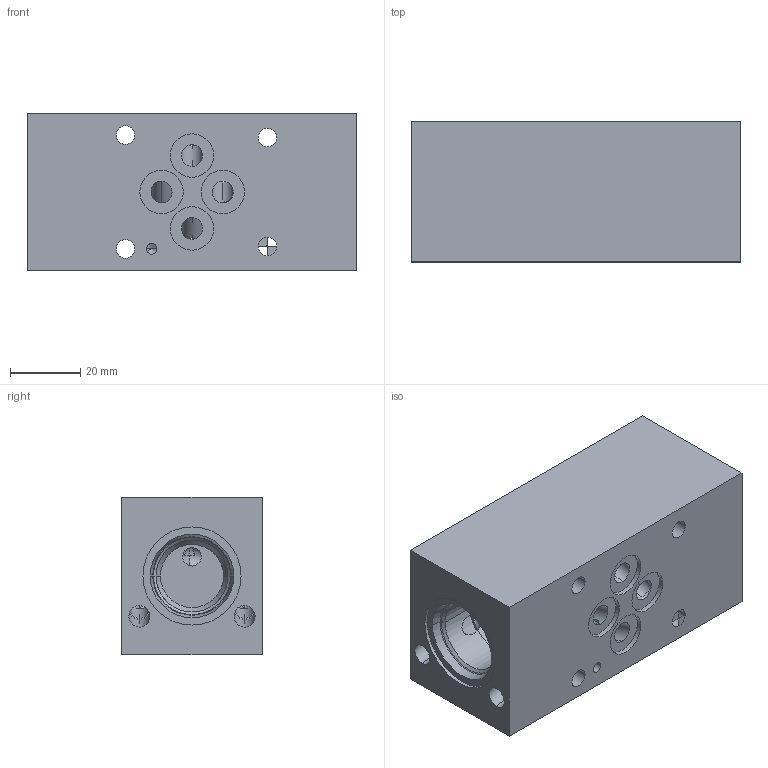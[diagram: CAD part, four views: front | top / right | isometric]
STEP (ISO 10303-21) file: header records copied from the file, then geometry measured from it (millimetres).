
FILE_DESCRIPTION((''),'2;1');
FILE_NAME('1000191657','2023-10-12T',('l.soukupova'),(''),'PRO/ENGINEER BY PARAMETRIC TECHNOLOGY CORPORATION, 2015440','PRO/ENGINEER BY PARAMETRIC TECHNOLOGY CORPORATION, 2015440','');
FILE_SCHEMA(('AUTOMOTIVE_DESIGN { 1 0 10303 214 1 1 1 1 }'));
Length unit declared in the file: millimetre
Products named in the file (1): 1000191657
Bounding box: 94 x 40 x 45 mm (x, y, z)
Volume: 134889.2 mm3; surface area: 33874.7 mm2
Topology: 1 solids, 5 shells, 157 faces, 591 edges, 538 vertices
Faces by surface type: cylinder 96, cone 43, plane 18
Entity records: 11676 total; most frequent: CARTESIAN_POINT 3869, DIRECTION 983, ORIENTED_EDGE 824, PRESENTATION_STYLE_ASSIGNMENT 735, STYLED_ITEM 652, CURVE_STYLE 648, EDGE_CURVE 420, AXIS2_PLACEMENT_3D 354
